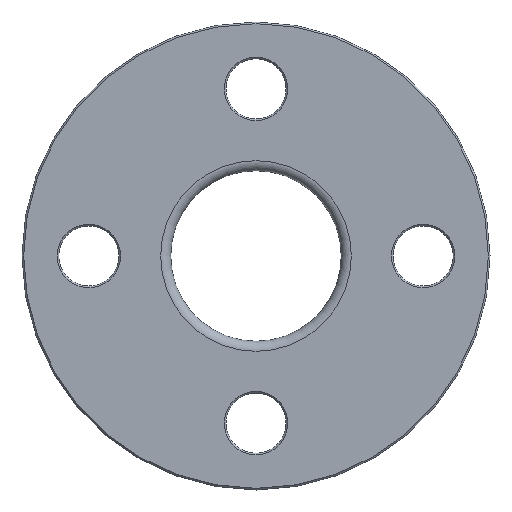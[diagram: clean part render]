
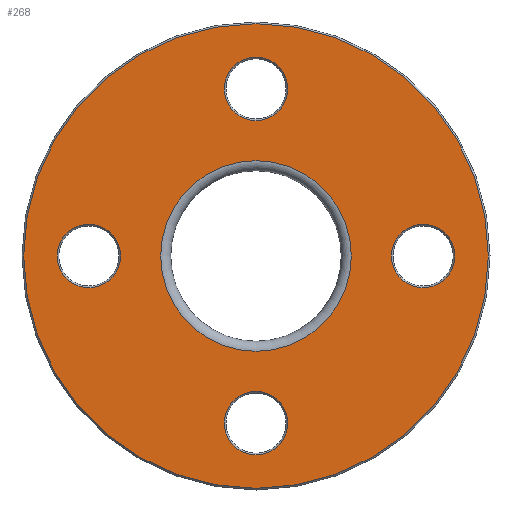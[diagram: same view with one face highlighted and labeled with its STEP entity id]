
A CAD part, front view. The second image highlights one B-rep face of the part: STEP entity #268.
In plain terms, the highlighted planar face has unit normal (0, -1, 0).
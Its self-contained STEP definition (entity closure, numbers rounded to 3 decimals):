
#23=PLANE('',#320);
#62=ORIENTED_EDGE('',*,*,#101,.T.);
#63=ORIENTED_EDGE('',*,*,#102,.T.);
#64=ORIENTED_EDGE('',*,*,#84,.T.);
#65=ORIENTED_EDGE('',*,*,#88,.T.);
#66=ORIENTED_EDGE('',*,*,#92,.T.);
#67=ORIENTED_EDGE('',*,*,#103,.T.);
#84=EDGE_CURVE('',#108,#108,#132,.T.);
#88=EDGE_CURVE('',#112,#112,#136,.T.);
#92=EDGE_CURVE('',#116,#116,#140,.T.);
#101=EDGE_CURVE('',#125,#125,#149,.F.);
#102=EDGE_CURVE('',#126,#126,#150,.T.);
#103=EDGE_CURVE('',#127,#127,#151,.T.);
#108=VERTEX_POINT('',#431);
#112=VERTEX_POINT('',#442);
#116=VERTEX_POINT('',#453);
#125=VERTEX_POINT('',#476);
#126=VERTEX_POINT('',#478);
#127=VERTEX_POINT('',#480);
#132=CIRCLE('',#293,9.5);
#136=CIRCLE('',#300,9.5);
#140=CIRCLE('',#307,9.5);
#149=CIRCLE('',#321,69.5);
#150=CIRCLE('',#322,28.5);
#151=CIRCLE('',#323,9.5);
#182=EDGE_LOOP('',(#62));
#183=EDGE_LOOP('',(#63));
#184=EDGE_LOOP('',(#64));
#185=EDGE_LOOP('',(#65));
#186=EDGE_LOOP('',(#66));
#187=EDGE_LOOP('',(#67));
#230=FACE_BOUND('',#182,.T.);
#231=FACE_BOUND('',#183,.T.);
#232=FACE_BOUND('',#184,.T.);
#233=FACE_BOUND('',#185,.T.);
#234=FACE_BOUND('',#186,.T.);
#235=FACE_BOUND('',#187,.T.);
#268=ADVANCED_FACE('',(#230,#231,#232,#233,#234,#235),#23,.F.);
#293=AXIS2_PLACEMENT_3D('',#430,#343,#344);
#300=AXIS2_PLACEMENT_3D('',#441,#357,#358);
#307=AXIS2_PLACEMENT_3D('',#452,#371,#372);
#320=AXIS2_PLACEMENT_3D('',#474,#397,#398);
#321=AXIS2_PLACEMENT_3D('',#475,#399,#400);
#322=AXIS2_PLACEMENT_3D('',#477,#401,#402);
#323=AXIS2_PLACEMENT_3D('',#479,#403,#404);
#343=DIRECTION('',(0.,1.,0.));
#344=DIRECTION('',(0.,0.,1.));
#357=DIRECTION('',(0.,1.,0.));
#358=DIRECTION('',(-1.,0.,0.));
#371=DIRECTION('',(0.,1.,0.));
#372=DIRECTION('',(0.,0.,-1.));
#397=DIRECTION('',(0.,1.,0.));
#398=DIRECTION('',(0.,0.,1.));
#399=DIRECTION('',(0.,1.,0.));
#400=DIRECTION('',(0.,0.,1.));
#401=DIRECTION('',(0.,1.,0.));
#402=DIRECTION('',(0.,0.,1.));
#403=DIRECTION('',(0.,1.,0.));
#404=DIRECTION('',(1.,0.,0.));
#430=CARTESIAN_POINT('',(-50.,0.,0.));
#431=CARTESIAN_POINT('',(-50.,0.,9.5));
#441=CARTESIAN_POINT('',(0.,0.,-50.));
#442=CARTESIAN_POINT('',(-9.5,0.,-50.));
#452=CARTESIAN_POINT('',(50.,0.,0.));
#453=CARTESIAN_POINT('',(50.,0.,-9.5));
#474=CARTESIAN_POINT('',(0.,0.,0.));
#475=CARTESIAN_POINT('',(0.,0.,0.));
#476=CARTESIAN_POINT('',(0.,0.,69.5));
#477=CARTESIAN_POINT('',(0.,0.,0.));
#478=CARTESIAN_POINT('',(0.,0.,28.5));
#479=CARTESIAN_POINT('',(0.,0.,50.));
#480=CARTESIAN_POINT('',(9.5,0.,50.));
